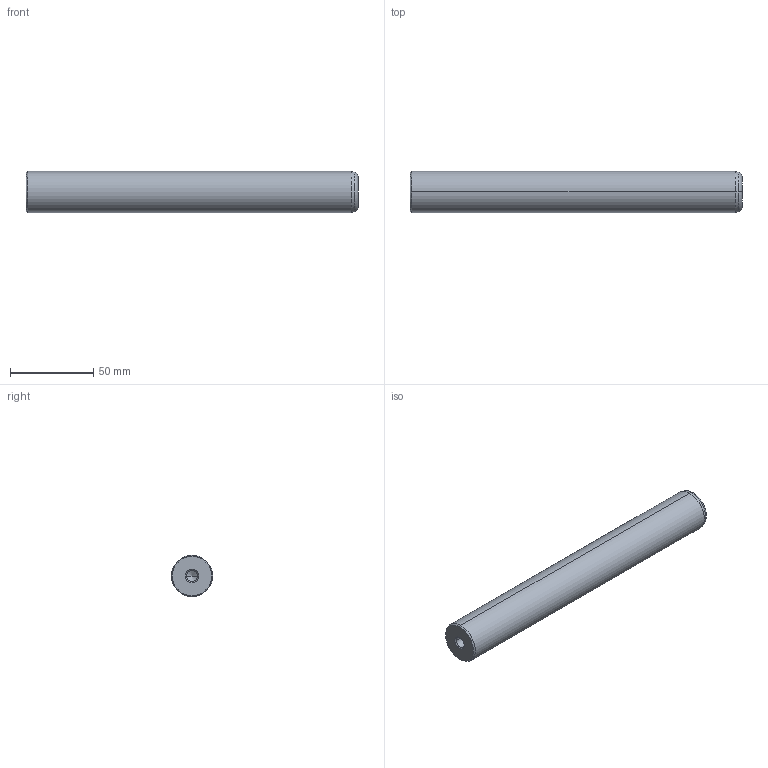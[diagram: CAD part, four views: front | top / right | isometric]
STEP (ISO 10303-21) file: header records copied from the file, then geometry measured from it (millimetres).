
FILE_DESCRIPTION(('CATIA V5 STEP Exchange'),'2;1');
FILE_NAME('C:\Users\Utente\Desktop\IO LAVORO\3D X SITO CF\X SITO\720\720-25x200.stp','2021-01-01T12:41:41+00:00',('none'),('none'),'CATIA Version 5 Release 20 GA (IN-10)','CATIA V5 STEP AP203','none');
FILE_SCHEMA(('CONFIG_CONTROL_DESIGN'));
Length unit declared in the file: millimetre
Products named in the file (1): 720-25x200
Bounding box: 200 x 25 x 25 mm (x, y, z)
Volume: 96198.1 mm3; surface area: 17518.6 mm2
Topology: 1 solids, 1 shells, 22 faces, 56 edges, 34 vertices
Faces by surface type: cone 12, cylinder 6, plane 2, torus 2
Entity records: 755 total; most frequent: CARTESIAN_POINT 216, ORIENTED_EDGE 104, DIRECTION 89, EDGE_CURVE 52, AXIS2_PLACEMENT_3D 50, VERTEX_POINT 34, CIRCLE 27, EDGE_LOOP 24
